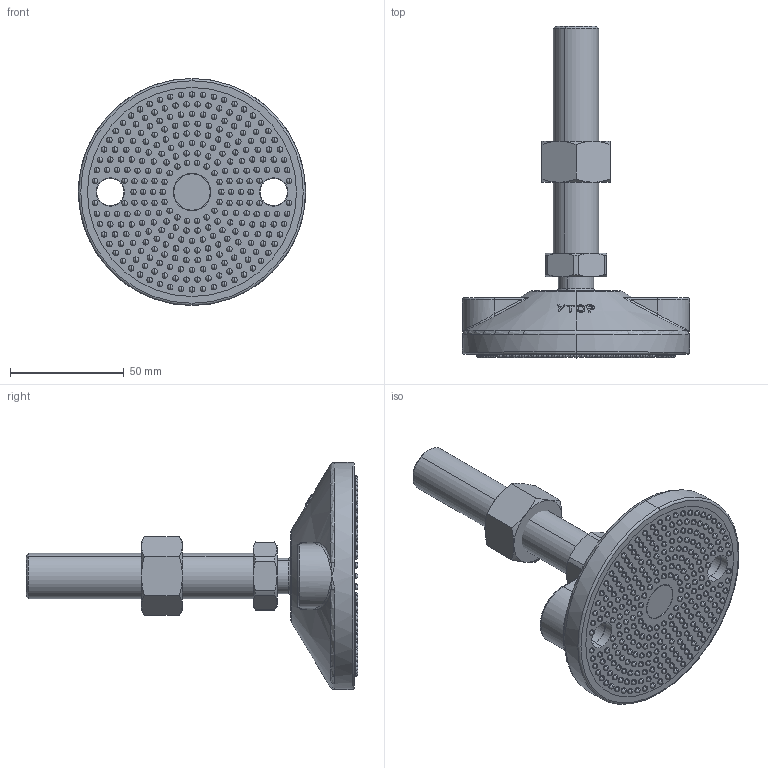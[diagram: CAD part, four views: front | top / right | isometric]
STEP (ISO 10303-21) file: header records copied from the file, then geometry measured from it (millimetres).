
FILE_DESCRIPTION (( 'STEP AP203' ), '1' );
FILE_NAME ('G-100-20100-PA.STEP', '2020-09-08T08:26:50', ( '' ), ( '' ), 'SwSTEP 2.0', 'SolidWorks 2016', '' );
FILE_SCHEMA (( 'CONFIG_CONTROL_DESIGN' ));
Length unit declared in the file: millimetre
Products named in the file (5): 球头螺杆M20系列_M20X100; G100菁釱; GB╱T 6170-2000[1型六角螺母 A级和B级M20]_M64; G-100-20100-PA; G100菁菜
Assembly tree (4 placements, depth 2):
  G-100-20100-PA
    G100菁釱
    G100菁菜
    GB╱T 6170-2000[1型六角螺母 A级和B级M20]_M64
    球头螺杆M20系列_M20X100
Bounding box: 100 x 146.12 x 100 mm (x, y, z)
Volume: 172373.3 mm3; surface area: 61043.1 mm2
Topology: 4 solids, 4 shells, 1339 faces, 3906 edges, 2302 vertices
Faces by surface type: cylinder 601, sphere 562, bspline 62, plane 50, cone 45, torus 19
Entity records: 41476 total; most frequent: CARTESIAN_POINT 11223, DIRECTION 7024, ORIENTED_EDGE 5594, AXIS2_PLACEMENT_3D 3175, EDGE_CURVE 2797, CIRCLE 1891, VERTEX_POINT 1751, EDGE_LOOP 1636
